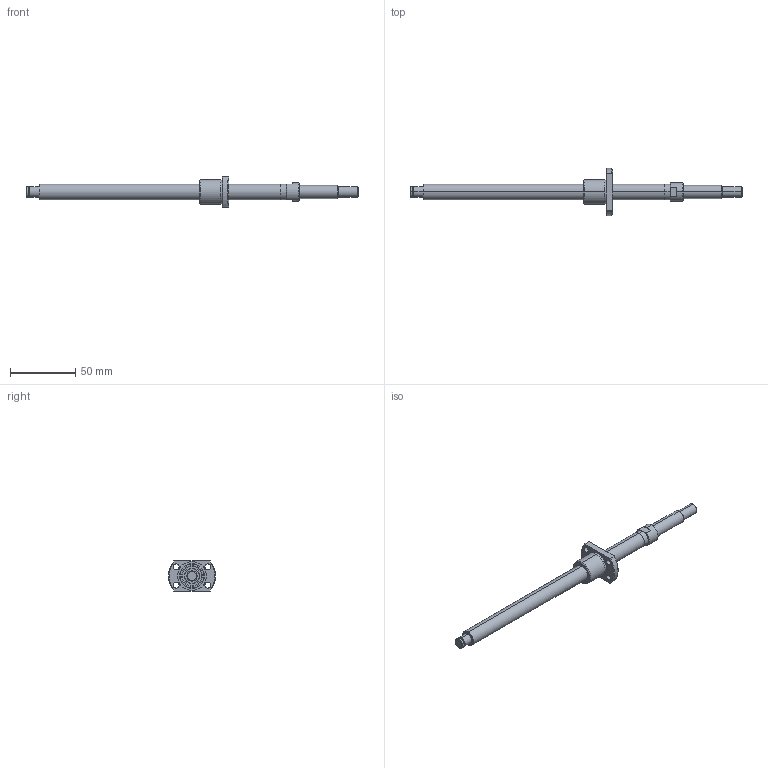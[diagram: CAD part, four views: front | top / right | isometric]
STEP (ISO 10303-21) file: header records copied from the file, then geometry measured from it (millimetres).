
FILE_DESCRIPTION (( 'STEP AP214' ), '1' );
FILE_NAME ('BS1202K-3D.STEP', '2014-03-05T15:12:21', ( '' ), ( '' ), 'SwSTEP 2.0', 'SolidWorks 2012', '' );
FILE_SCHEMA (( 'AUTOMOTIVE_DESIGN' ));
Length unit declared in the file: millimetre
Products named in the file (3): BS1202Kナット; BS1202KŽ²; BS1202K-3D
Assembly tree (2 placements, depth 2):
  BS1202K-3D
    BS1202KŽ²
    BS1202Kナット
Bounding box: 254 x 36 x 23 mm (x, y, z)
Volume: 49562.5 mm3; surface area: 20740.4 mm2
Topology: 5 solids, 5 shells, 102 faces, 220 edges, 140 vertices
Faces by surface type: cylinder 48, plane 28, cone 26
Entity records: 2987 total; most frequent: DIRECTION 548, CARTESIAN_POINT 503, ORIENTED_EDGE 440, AXIS2_PLACEMENT_3D 233, EDGE_CURVE 220, VERTEX_POINT 140, EDGE_LOOP 128, CIRCLE 126
